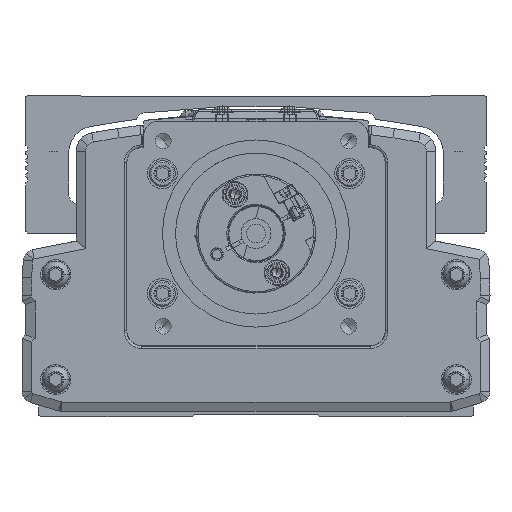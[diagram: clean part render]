
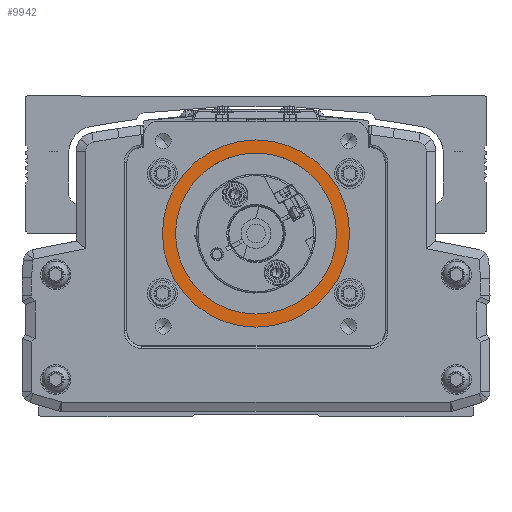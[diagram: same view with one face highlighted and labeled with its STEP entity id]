
A CAD part, front view. The second image highlights one B-rep face of the part: STEP entity #9942.
In plain terms, the highlighted planar face has unit normal (0, -1, 0).
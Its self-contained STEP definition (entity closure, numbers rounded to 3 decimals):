
#9942=ADVANCED_FACE('',(#20171,#20172),#20173,.T.);
#20171=FACE_BOUND('',#32642,.T.);
#20172=FACE_OUTER_BOUND('',#32643,.T.);
#20173=PLANE('',#32644);
#32642=EDGE_LOOP('',(#61606,#61607));
#32643=EDGE_LOOP('',(#61608,#61609));
#32644=AXIS2_PLACEMENT_3D('',#61610,#61611,#61612);
#61606=ORIENTED_EDGE('',*,*,#69545,.F.);
#61607=ORIENTED_EDGE('',*,*,#65565,.F.);
#61608=ORIENTED_EDGE('',*,*,#69160,.F.);
#61609=ORIENTED_EDGE('',*,*,#68136,.F.);
#61610=CARTESIAN_POINT('',(-300.,-485.778,0.));
#61611=DIRECTION('',(0.,-1.0,0.));
#61612=DIRECTION('',(1.0,0.,0.));
#65565=EDGE_CURVE('',#79328,#79324,#79330,.T.);
#68136=EDGE_CURVE('',#83329,#83324,#83331,.T.);
#69160=EDGE_CURVE('',#83324,#83329,#84846,.T.);
#69545=EDGE_CURVE('',#79324,#79328,#85375,.T.);
#79324=VERTEX_POINT('',#98246);
#79328=VERTEX_POINT('',#98251);
#79330=CIRCLE('',#98254,21.5);
#83324=VERTEX_POINT('',#103923);
#83329=VERTEX_POINT('',#103929);
#83331=CIRCLE('',#103932,25.0);
#84846=CIRCLE('',#106274,25.0);
#85375=CIRCLE('',#107082,21.5);
#98246=CARTESIAN_POINT('',(-278.5,-485.778,0.));
#98251=CARTESIAN_POINT('',(-321.5,-485.778,0.));
#98254=AXIS2_PLACEMENT_3D('',#119170,#119171,#119172);
#103923=CARTESIAN_POINT('',(-275.,-485.778,0.));
#103929=CARTESIAN_POINT('',(-325.,-485.778,0.));
#103932=AXIS2_PLACEMENT_3D('',#122642,#122643,#122644);
#106274=AXIS2_PLACEMENT_3D('',#123950,#123951,#123952);
#107082=AXIS2_PLACEMENT_3D('',#124419,#124420,#124421);
#119170=CARTESIAN_POINT('',(-300.,-485.778,0.));
#119171=DIRECTION('',(0.,-1.0,0.));
#119172=DIRECTION('',(1.0,0.,0.));
#122642=CARTESIAN_POINT('',(-300.,-485.778,0.));
#122643=DIRECTION('',(0.,1.0,0.));
#122644=DIRECTION('',(1.0,0.,0.));
#123950=CARTESIAN_POINT('',(-300.,-485.778,0.));
#123951=DIRECTION('',(0.,1.0,0.));
#123952=DIRECTION('',(1.0,0.,0.));
#124419=CARTESIAN_POINT('',(-300.,-485.778,0.));
#124420=DIRECTION('',(0.,-1.0,0.));
#124421=DIRECTION('',(1.0,0.,0.));
